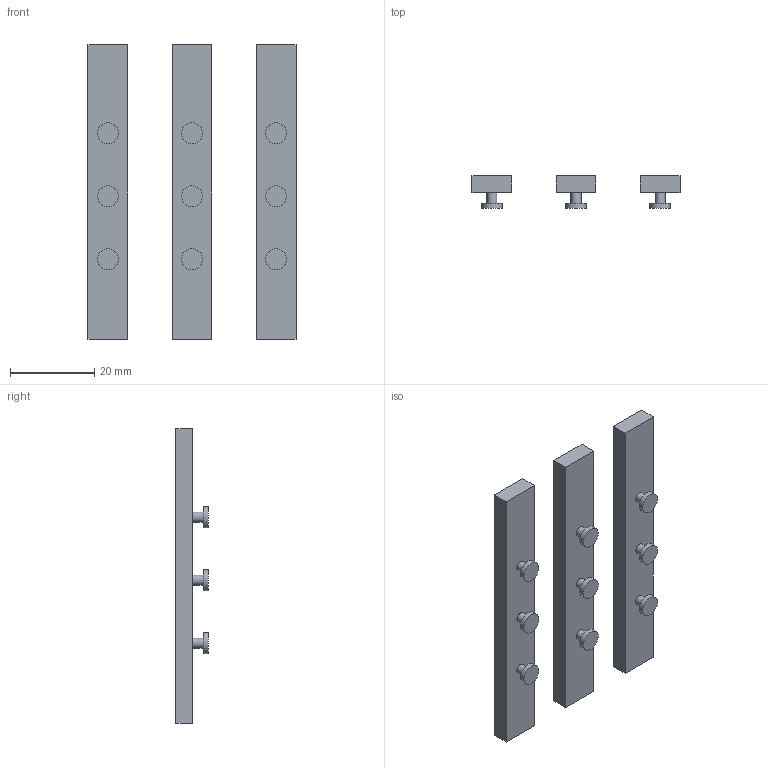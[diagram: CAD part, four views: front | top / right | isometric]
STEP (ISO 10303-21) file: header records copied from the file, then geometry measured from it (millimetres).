
FILE_DESCRIPTION(('Open CASCADE Model'),'2;1');
FILE_NAME('Open CASCADE Shape Model','2026-10-17T21:54:43',('Author'),( 'Open CASCADE'),'Open CASCADE STEP processor 7.9','Open CASCADE 7.9' ,'Unknown');
FILE_SCHEMA(('AUTOMOTIVE_DESIGN { 1 0 10303 214 1 1 1 1 }'));
Length unit declared in the file: millimetre
Products named in the file (4): Open CASCADE STEP translator 7.9 15; Open CASCADE STEP translator 7.9 15.1; Open CASCADE STEP translator 7.9 15.2; Open CASCADE STEP translator 7.9 15.3
Assembly tree (3 placements, depth 2):
  Open CASCADE STEP translator 7.9 15
    Open CASCADE STEP translator 7.9 15.1
    Open CASCADE STEP translator 7.9 15.2
    Open CASCADE STEP translator 7.9 15.3
Bounding box: 49.5 x 7.7 x 70 mm (x, y, z)
Volume: 8293.8 mm3; surface area: 6509.3 mm2
Topology: 3 solids, 3 shells, 54 faces, 90 edges, 60 vertices
Faces by surface type: plane 36, cylinder 18
Full cylindrical faces by diameter (mm): 2.4 x9, 5 x9
Entity records: 2554 total; most frequent: CARTESIAN_POINT 496, DIRECTION 404, LINE 198, VECTOR 198, ORIENTED_EDGE 180, PCURVE 180, DEFINITIONAL_REPRESENTATION 180, AXIS2_PLACEMENT_3D 94
